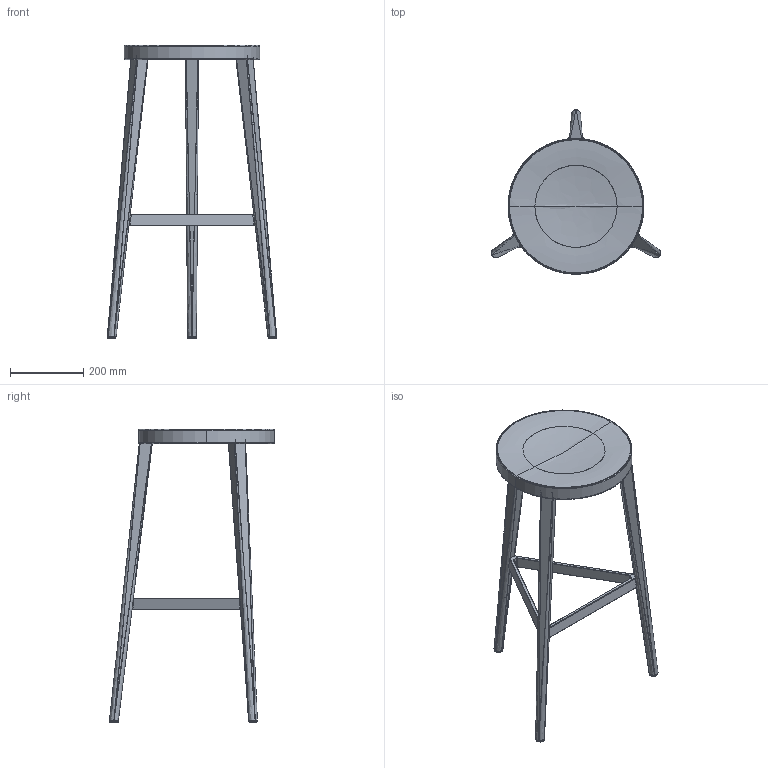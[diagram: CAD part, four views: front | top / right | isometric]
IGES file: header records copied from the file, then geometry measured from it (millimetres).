
Start section: SolidWorks IGES file using analytic representation for surfaces
Global section: file name: C:\Auftragsdaten\AU2510384 Barhocker\AU2510384_REKO\AU2510384_REKO_Barhocker.IGS; native system: SolidWorks 2024; preprocessor: SolidWorks 2024; author: raso; date: 250327.161217; units: millimetre
Bounding box: 462 x 449.98 x 799.5 mm (x, y, z)
Surface area: 645029.9 mm2 (no closed solid volume)
Topology: 0 solids, 0 shells, 288 faces, 3436 edges, 3435 vertices
Faces by surface type: bspline 194, revolution 94
